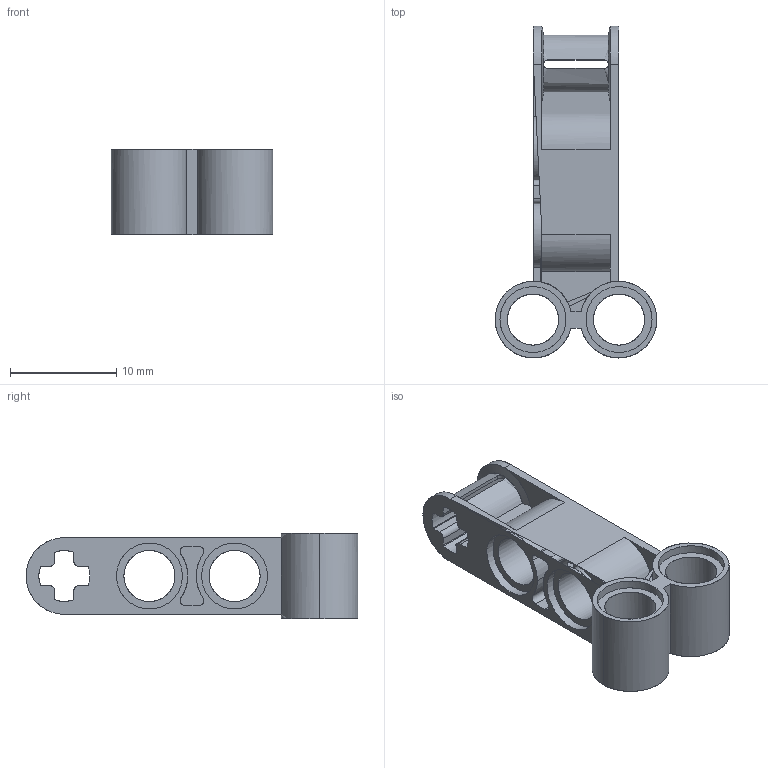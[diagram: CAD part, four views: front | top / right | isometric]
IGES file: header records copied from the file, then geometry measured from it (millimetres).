
Start section: C
Global section: file name: ClGray_4652234_AVV.iges; native system: By Siemens PLM Incorporated; preprocessor: XPlus GENERIC/IGES 26.1.183; author: Author; organization: Title; date: 20250721.235814; units: millimetre
Bounding box: 15.2 x 31.2 x 8 mm (x, y, z)
Surface area: 1919.7 mm2 (no closed solid volume)
Topology: 0 solids, 0 shells, 119 faces, 670 edges, 670 vertices
Faces by surface type: bspline 119
